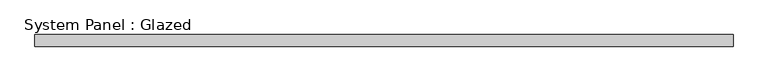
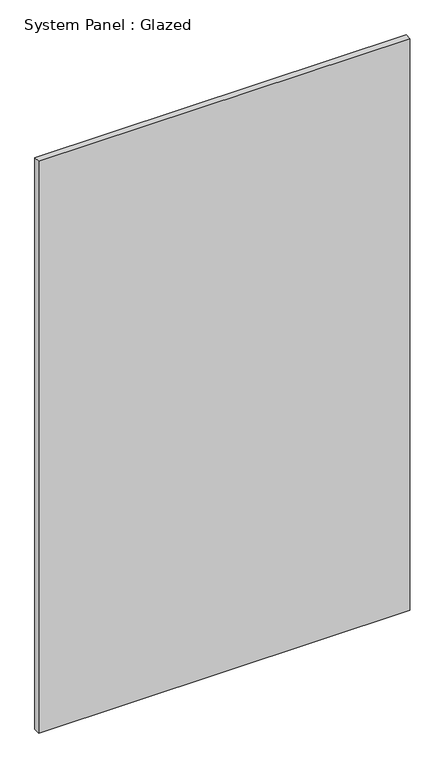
"""IFC4 building model written with IfcOpenShell, lengths in millimetres: plate geometry, System Panel : Glazed."""

from ifc_helpers import new_model, si_unit, origin, origin_with_axes, place, context, project, spatial, polyline, outline, extrude, source, transform, mapped, element, save


def system_panel_glazed_2f061a2c(model_context):
    return source(origin(), model_context, "Body", "SweptSolid", [
        extrude(outline(polyline([(726.123828, -49.5), (-726.123828, -49.5), (-726.123828, -24.5), (726.123828, -24.5), (726.123828, -49.5)])), origin_with_axes(), (0.0, 0.0, 1.0), 2365.0),
    ])


if __name__ == "__main__":
    model = new_model("IFC4")
    model_context = context("Model", 3, world=origin())
    ifc_project = project(units=[si_unit("LENGTHUNIT", "METRE", prefix="MILLI")], contexts=[model_context])
    site = spatial("IfcSite", under=ifc_project)
    building = spatial("IfcBuilding", under=site)
    placement = place(None, origin())
    system_panel_glazed_shape = system_panel_glazed_2f061a2c(model_context)
    element("IfcPlate", 1, ObjectType="System Panel : Glazed", at=placement, inside=building, context=model_context, shape_type="MappedRepresentation", body=[
        mapped(system_panel_glazed_shape, transform((0.0, 0.0, 0.0), x_axis=(1.0, 0.0, 0.0), y_axis=(0.0, 1.0, 0.0), z_axis=(0.0, 0.0, 1.0))),
    ])
    save(model, "model.ifc")
